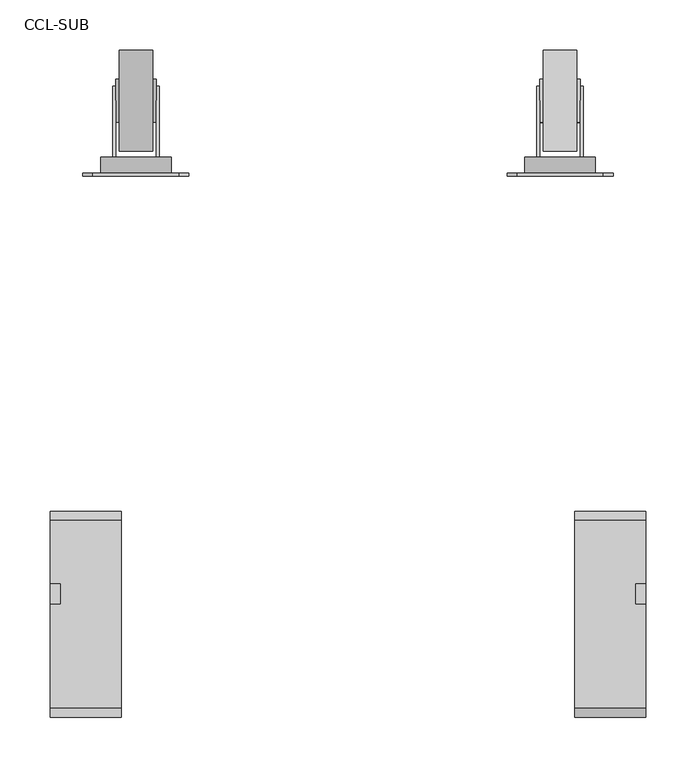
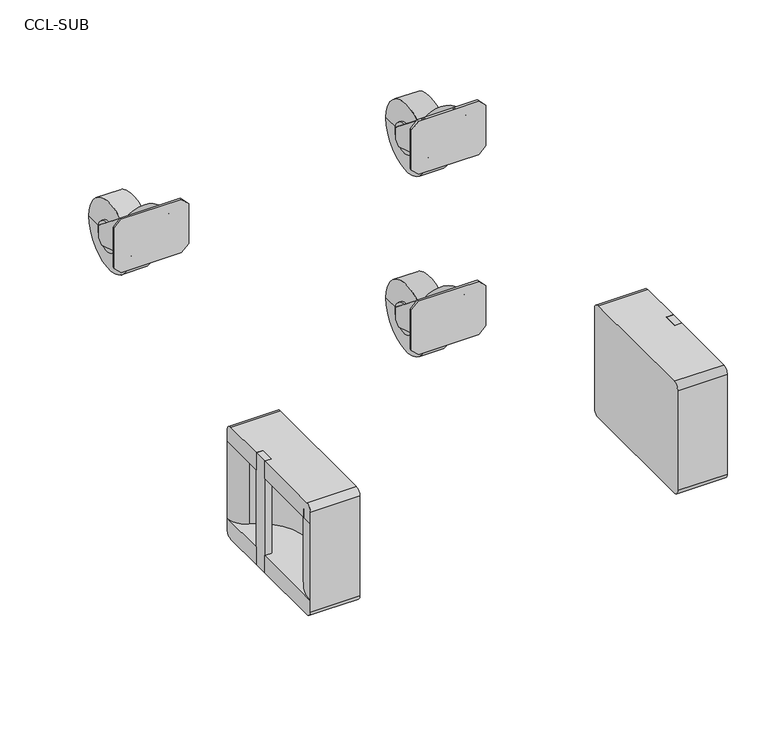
"""IFC4 building model written with IfcOpenShell, lengths in millimetres: proxy geometry, d&b CL-Series CCL-SUB : CCL-SUB."""

from ifc_helpers import new_model, si_unit, frame, origin, place, context, project, spatial, polyline, circle_curve, outline, extrude, source, transform, mapped, element, save
from ifc_brep_helpers import plane_surface, cylinder_surface, revolved_surface, advanced_brep


def ccl_sub_ef88d173(model_context):
    return source(origin(), model_context, "Body", "SolidModel", [
        advanced_brep(
        [(2745.3228617, 668.4505973, 364.999962), (2733.3228617, 668.4505973, 338.6181501), (2733.3228617, 668.4505973, 391.0781491), (2730.3228617, 668.4505973, 391.0781491), (2730.3228617, 668.4505973, 336.2771488), (2690.3228617, 668.4505973, 336.2771488), (2690.3228617, 668.4505973, 391.0781491), (2687.3228617, 668.4505973, 391.0781491), (2687.3228617, 668.4505973, 338.6181501), (2675.3228617, 668.4505973, 364.999962), (2675.3228617, 652.4505973, 364.999962), (2687.3228617, 652.4505973, 338.6181501), (2687.3228617, 652.4505973, 330.17524), (2690.3228617, 652.4505973, 330.17524), (2690.3228617, 652.4505973, 336.2771488), (2730.3228617, 652.4505973, 336.2771488), (2730.3228617, 652.4505973, 330.17524), (2733.3228617, 652.4505973, 330.17524), (2733.3228617, 652.4505973, 338.6181501), (2745.3228617, 652.4505973, 364.999962), (2733.3228617, 667.1505973, 330.17524), (2733.3228617, 731.6505973, 309.999962), (2733.3228617, 738.6505973, 316.999962), (2733.3228617, 738.6505973, 335.1264244), (2730.3228617, 738.6505973, 335.1264244), (2730.3228617, 738.6505973, 316.999962), (2730.3228617, 731.6505973, 309.999962), (2730.3228617, 667.1505973, 330.17524), (2687.3228617, 738.6505973, 335.1264244), (2687.3228617, 738.6505973, 316.999962), (2687.3228617, 731.6505973, 309.999962), (2687.3228617, 667.1505973, 330.17524), (2690.3228617, 667.1505973, 330.17524), (2690.3228617, 731.6505973, 309.999962), (2690.3228617, 738.6505973, 316.999962), (2690.3228617, 738.6505973, 335.1264244)],
        [
            (0, 1, circle_curve(frame((2710.3228617, 668.4505973, 364.999962), z_axis=(0.0, 1.0, 0.0), x_axis=(1.0, 0.0, 0.0)), 35.0)),
            (1, 2),
            (2, 3),
            (3, 4),
            (4, 5, circle_curve(frame((2710.3228617, 668.4505973, 364.999962), z_axis=(0.0, 1.0, 0.0), x_axis=(1.0, 0.0, 0.0)), 35.0)),
            (5, 6),
            (6, 7),
            (7, 8),
            (8, 9, circle_curve(frame((2710.3228617, 668.4505973, 364.999962), z_axis=(0.0, 1.0, 0.0), x_axis=(1.0, 0.0, 0.0)), 35.0)),
            (9, 0, circle_curve(frame((2710.3228617, 668.4505973, 364.999962), z_axis=(0.0, 1.0, 0.0), x_axis=(1.0, 0.0, 0.0)), 35.0)),
            (10, 11, circle_curve(frame((2710.3228617, 652.4505973, 364.999962), z_axis=(0.0, -1.0, 0.0), x_axis=(1.0, 0.0, 0.0)), 35.0)),
            (11, 12),
            (12, 13),
            (13, 14),
            (14, 15, circle_curve(frame((2710.3228617, 652.4505973, 364.999962), z_axis=(0.0, -1.0, 0.0), x_axis=(1.0, 0.0, 0.0)), 35.0)),
            (15, 16),
            (16, 17),
            (17, 18),
            (18, 19, circle_curve(frame((2710.3228617, 652.4505973, 364.999962), z_axis=(0.0, -1.0, 0.0), x_axis=(1.0, 0.0, 0.0)), 35.0)),
            (19, 10, circle_curve(frame((2710.3228617, 652.4505973, 364.999962), z_axis=(0.0, -1.0, 0.0), x_axis=(1.0, 0.0, 0.0)), 35.0)),
            (8, 11),
            (10, 9),
            (14, 5),
            (4, 15),
            (18, 1),
            (0, 19),
            (17, 20),
            (20, 21),
            (21, 22),
            (22, 23),
            (23, 2),
            (3, 24),
            (24, 25),
            (25, 26),
            (26, 27),
            (27, 16),
            (23, 24),
            (22, 25),
            (21, 26),
            (20, 27),
            (7, 28),
            (28, 29),
            (29, 30),
            (30, 31),
            (31, 12),
            (13, 32),
            (32, 33),
            (33, 34),
            (34, 35),
            (35, 6),
            (35, 28),
            (34, 29),
            (33, 30),
            (32, 31),
        ],
        [
            plane_surface(frame((2745.3228617, 668.4505973, 364.999962), z_axis=(0.0, 1.0, 0.0), x_axis=(0.0, 0.0, 1.0))),
            plane_surface(frame((2745.3228617, 652.4505973, 364.999962), z_axis=(0.0, -1.0, 0.0), x_axis=(0.0, 0.0, -1.0))),
            cylinder_surface(frame((2710.3228617, 652.4505973, 364.999962), z_axis=(0.0, 1.0, 0.0), x_axis=(1.0, 0.0, 0.0)), 35.0),
            plane_surface(frame((2733.3228617, 722.3202866, 348.1422228), z_axis=(1.0000000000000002, 0.0, 0.0), x_axis=(0.0, 0.7819992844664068, -0.6232793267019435))),
            plane_surface(frame((2730.3228617, 722.3202866, 348.1422228), z_axis=(-1.0000000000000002, 0.0, 0.0), x_axis=(0.0, -0.7819992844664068, 0.6232793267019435))),
            plane_surface(frame((2733.3228617, 668.4505973, 391.0781491), z_axis=(0.0, 0.6232793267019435, 0.7819992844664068), x_axis=(-1.0, 0.0, 0.0))),
            plane_surface(frame((2733.3228617, 738.6505973, 335.1264244), z_axis=(0.0, 1.0, 0.0), x_axis=(-1.0, 0.0, 0.0))),
            plane_surface(frame((2733.3228617, 738.6505973, 316.999962), z_axis=(0.0, 0.7071067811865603, -0.7071067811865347), x_axis=(-1.0, 0.0, 0.0))),
            plane_surface(frame((2733.3228617, 731.6505973, 309.999962), z_axis=(0.0, -0.29853148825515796, -0.9543997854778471), x_axis=(-1.0, 0.0, 0.0))),
            plane_surface(frame((2733.3228617, 667.1505973, 330.17524), z_axis=(0.0, 0.0, -1.0), x_axis=(-1.0, 0.0, 0.0))),
            plane_surface(frame((2687.3228617, 668.4505973, 391.0781491), z_axis=(-1.0, 0.0, 0.0), x_axis=(0.0, -1.0, 0.0))),
            plane_surface(frame((2690.3228617, 668.4505973, 391.0781491), z_axis=(1.0, 0.0, 0.0), x_axis=(0.0, 1.0, 0.0))),
            plane_surface(frame((2687.3228617, 738.6505973, 335.1264244), z_axis=(0.0, 0.6232793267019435, 0.7819992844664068), x_axis=(1.0, 0.0, 0.0))),
            plane_surface(frame((2687.3228617, 738.6505973, 316.999962), z_axis=(0.0, 1.0, 0.0), x_axis=(1.0, 0.0, 0.0))),
            plane_surface(frame((2687.3228617, 731.6505973, 309.999962), z_axis=(0.0, 0.7071067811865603, -0.7071067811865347), x_axis=(1.0, 0.0, 0.0))),
            plane_surface(frame((2687.3228617, 667.1505973, 330.17524), z_axis=(0.0, -0.29853148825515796, -0.9543997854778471), x_axis=(1.0, 0.0, 0.0))),
            plane_surface(frame((2687.3228617, 652.4505973, 330.17524), z_axis=(0.0, 0.0, -1.0), x_axis=(1.0, 0.0, 0.0))),
        ],
        [
            (0, [[1, 2, 3, 4, 5, 6, 7, 8, 9, 10]]),
            (1, [[11, 12, 13, 14, 15, 16, 17, 18, 19, 20]]),
            (2, [[-9, 21, -11, 22]]),
            (2, [[-15, 23, -5, 24]]),
            (2, [[-19, 25, -1, 26]]),
            (2, [[-22, -20, -26, -10]]),
            (3, [[-2, -25, -18, 27, 28, 29, 30, 31]]),
            (4, [[-16, -24, -4, 32, 33, 34, 35, 36]]),
            (5, [[37, -32, -3, -31]]),
            (6, [[38, -33, -37, -30]]),
            (7, [[39, -34, -38, -29]]),
            (8, [[40, -35, -39, -28]]),
            (9, [[-17, -36, -40, -27]]),
            (10, [[-12, -21, -8, 41, 42, 43, 44, 45]]),
            (11, [[-6, -23, -14, 46, 47, 48, 49, 50]]),
            (12, [[-7, -50, 51, -41]]),
            (13, [[-51, -49, 52, -42]]),
            (14, [[-52, -48, 53, -43]]),
            (15, [[-53, -47, 54, -44]]),
            (16, [[-54, -46, -13, -45]]),
        ],
    ),
        extrude(outline(polyline([(405.0, 2667.8228997), (394.999962, 2657.8228617), (334.999962, 2657.8228617), (324.999924, 2667.8228997), (324.999924, 2752.8228237), (334.999962, 2762.8228617), (394.999962, 2762.8228617), (405.0, 2752.8228237), (405.0, 2667.8228997)])), frame((0.0, 649.4505973, 0.0), z_axis=(0.0, 1.0, 0.0), x_axis=(0.0, 0.0, 1.0)), (0.0, 0.0, 1.0), 3.0),
        advanced_brep(
        [(2726.9996195, 674.1067763, 325.4678867), (2693.6461039, 674.1067763, 325.4678867), (2693.6461039, 774.1067763, 325.4678867), (2726.9996195, 774.1067763, 325.4678867), (2726.9996195, 702.693179, 325.4678867), (2726.9996195, 745.5203735, 325.4678867), (2730.3228617, 702.693179, 325.4678867), (2730.3228617, 745.5203735, 325.4678867), (2730.3228617, 724.1067763, 325.4678867), (2690.3228617, 702.693179, 325.4678867), (2690.3228617, 724.1067763, 325.4678867), (2690.3228617, 745.5203735, 325.4678867), (2693.6461039, 702.693179, 325.4678867), (2693.6461039, 745.5203735, 325.4678867)],
        [
            (0, 1),
            (1, 2, circle_curve(frame((2693.6461039, 724.1067763, 325.4678867), z_axis=(1.0, 0.0, 0.0), x_axis=(0.0, 1.0, 0.0)), 50.0)),
            (2, 3),
            (3, 0, circle_curve(frame((2726.9996195, 724.1067763, 325.4678867), z_axis=(-1.0, 0.0, 0.0), x_axis=(0.0, 1.0, 0.0)), 50.0)),
            (2, 1, circle_curve(frame((2693.6461039, 724.1067763, 325.4678867), z_axis=(1.0, 0.0, 0.0), x_axis=(0.0, 1.0, 0.0)), 50.0)),
            (0, 3, circle_curve(frame((2726.9996195, 724.1067763, 325.4678867), z_axis=(-1.0, 0.0, 0.0), x_axis=(0.0, 1.0, 0.0)), 50.0)),
            (4, 0),
            (3, 5),
            (5, 4, circle_curve(frame((2726.9996195, 724.1067763, 325.4678867), z_axis=(-1.0, 0.0, 0.0), x_axis=(0.0, 1.0, 0.0)), 21.4135972)),
            (4, 5, circle_curve(frame((2726.9996195, 724.1067763, 325.4678867), z_axis=(-1.0, 0.0, 0.0), x_axis=(0.0, 1.0, 0.0)), 21.4135972)),
            (6, 4),
            (5, 7),
            (7, 6, circle_curve(frame((2730.3228617, 724.1067763, 325.4678867), z_axis=(-1.0, 0.0, 0.0), x_axis=(0.0, 1.0, 0.0)), 21.4135972)),
            (6, 7, circle_curve(frame((2730.3228617, 724.1067763, 325.4678867), z_axis=(-1.0, 0.0, 0.0), x_axis=(0.0, 1.0, 0.0)), 21.4135972)),
            (8, 6),
            (7, 8),
            (9, 10),
            (10, 11),
            (11, 9, circle_curve(frame((2690.3228617, 724.1067763, 325.4678867), z_axis=(-1.0, 0.0, 0.0), x_axis=(0.0, 1.0, 0.0)), 21.4135972)),
            (9, 11, circle_curve(frame((2690.3228617, 724.1067763, 325.4678867), z_axis=(-1.0, 0.0, 0.0), x_axis=(0.0, 1.0, 0.0)), 21.4135972)),
            (12, 9),
            (11, 13),
            (13, 12, circle_curve(frame((2693.6461039, 724.1067763, 325.4678867), z_axis=(-1.0, 0.0, 0.0), x_axis=(0.0, 1.0, 0.0)), 21.4135972)),
            (12, 13, circle_curve(frame((2693.6461039, 724.1067763, 325.4678867), z_axis=(-1.0, 0.0, 0.0), x_axis=(0.0, 1.0, 0.0)), 21.4135972)),
            (1, 12),
            (13, 2),
        ],
        [
            cylinder_surface(frame((2753.2661159, 724.1067763, 325.4678867), z_axis=(1.0, 0.0, 0.0), x_axis=(0.0, 1.0, 0.0)), 50.0),
            plane_surface(frame((2726.9996195, 724.1067763, 325.4678867), z_axis=(1.0, 0.0, 0.0), x_axis=(0.0, 1.0, 0.0))),
            cylinder_surface(frame((2753.2661159, 724.1067763, 325.4678867), z_axis=(1.0, 0.0, 0.0), x_axis=(0.0, 1.0, 0.0)), 21.4135972),
            plane_surface(frame((2730.3228617, 724.1067763, 325.4678867), z_axis=(1.0, 0.0, 0.0), x_axis=(0.0, 1.0, 0.0))),
            plane_surface(frame((2690.3228617, 724.1067763, 325.4678867), z_axis=(-1.0, 0.0, 0.0), x_axis=(0.0, 1.0, 0.0))),
            plane_surface(frame((2693.6461039, 724.1067763, 325.4678867), z_axis=(-1.0, 0.0, 0.0), x_axis=(0.0, 1.0, 0.0))),
        ],
        [
            (0, [[1, 2, 3, 4]]),
            (0, [[-3, 5, -1, 6]]),
            (1, [[7, -4, 8, 9]]),
            (1, [[-8, -6, -7, 10]]),
            (2, [[11, -9, 12, 13]]),
            (2, [[-12, -10, -11, 14]]),
            (3, [[15, -13, 16]]),
            (3, [[-16, -14, -15]]),
            (4, [[17, 18, 19]]),
            (4, [[-18, -17, 20]]),
            (2, [[21, -19, 22, 23]]),
            (2, [[-22, -20, -21, 24]]),
            (5, [[25, -23, 26, -2]]),
            (5, [[-26, -24, -25, -5]]),
        ],
    ),
        advanced_brep(
        [(2745.3228617, 668.4505973, 94.999962), (2733.3228617, 668.4505973, 68.6181501), (2733.3228617, 668.4505973, 121.0781491), (2730.3228617, 668.4505973, 121.0781491), (2730.3228617, 668.4505973, 66.2771488), (2690.3228617, 668.4505973, 66.2771488), (2690.3228617, 668.4505973, 121.0781491), (2687.3228617, 668.4505973, 121.0781491), (2687.3228617, 668.4505973, 68.6181501), (2675.3228617, 668.4505973, 94.999962), (2675.3228617, 652.4505973, 94.999962), (2687.3228617, 652.4505973, 68.6181501), (2687.3228617, 652.4505973, 60.17524), (2690.3228617, 652.4505973, 60.17524), (2690.3228617, 652.4505973, 66.2771488), (2730.3228617, 652.4505973, 66.2771488), (2730.3228617, 652.4505973, 60.17524), (2733.3228617, 652.4505973, 60.17524), (2733.3228617, 652.4505973, 68.6181501), (2745.3228617, 652.4505973, 94.999962), (2733.3228617, 667.1505973, 60.17524), (2733.3228617, 731.6505973, 39.999962), (2733.3228617, 738.6505973, 46.999962), (2733.3228617, 738.6505973, 65.1264244), (2730.3228617, 738.6505973, 65.1264244), (2730.3228617, 738.6505973, 46.999962), (2730.3228617, 731.6505973, 39.999962), (2730.3228617, 667.1505973, 60.17524), (2687.3228617, 738.6505973, 65.1264244), (2687.3228617, 738.6505973, 46.999962), (2687.3228617, 731.6505973, 39.999962), (2687.3228617, 667.1505973, 60.17524), (2690.3228617, 667.1505973, 60.17524), (2690.3228617, 731.6505973, 39.999962), (2690.3228617, 738.6505973, 46.999962), (2690.3228617, 738.6505973, 65.1264244)],
        [
            (0, 1, circle_curve(frame((2710.3228617, 668.4505973, 94.999962), z_axis=(0.0, 1.0, 0.0), x_axis=(1.0, 0.0, 0.0)), 35.0)),
            (1, 2),
            (2, 3),
            (3, 4),
            (4, 5, circle_curve(frame((2710.3228617, 668.4505973, 94.999962), z_axis=(0.0, 1.0, 0.0), x_axis=(1.0, 0.0, 0.0)), 35.0)),
            (5, 6),
            (6, 7),
            (7, 8),
            (8, 9, circle_curve(frame((2710.3228617, 668.4505973, 94.999962), z_axis=(0.0, 1.0, 0.0), x_axis=(1.0, 0.0, 0.0)), 35.0)),
            (9, 0, circle_curve(frame((2710.3228617, 668.4505973, 94.999962), z_axis=(0.0, 1.0, 0.0), x_axis=(1.0, 0.0, 0.0)), 35.0)),
            (10, 11, circle_curve(frame((2710.3228617, 652.4505973, 94.999962), z_axis=(0.0, -1.0, 0.0), x_axis=(1.0, 0.0, 0.0)), 35.0)),
            (11, 12),
            (12, 13),
            (13, 14),
            (14, 15, circle_curve(frame((2710.3228617, 652.4505973, 94.999962), z_axis=(0.0, -1.0, 0.0), x_axis=(1.0, 0.0, 0.0)), 35.0)),
            (15, 16),
            (16, 17),
            (17, 18),
            (18, 19, circle_curve(frame((2710.3228617, 652.4505973, 94.999962), z_axis=(0.0, -1.0, 0.0), x_axis=(1.0, 0.0, 0.0)), 35.0)),
            (19, 10, circle_curve(frame((2710.3228617, 652.4505973, 94.999962), z_axis=(0.0, -1.0, 0.0), x_axis=(1.0, 0.0, 0.0)), 35.0)),
            (8, 11),
            (10, 9),
            (14, 5),
            (4, 15),
            (18, 1),
            (0, 19),
            (17, 20),
            (20, 21),
            (21, 22),
            (22, 23),
            (23, 2),
            (3, 24),
            (24, 25),
            (25, 26),
            (26, 27),
            (27, 16),
            (23, 24),
            (22, 25),
            (21, 26),
            (20, 27),
            (7, 28),
            (28, 29),
            (29, 30),
            (30, 31),
            (31, 12),
            (13, 32),
            (32, 33),
            (33, 34),
            (34, 35),
            (35, 6),
            (35, 28),
            (34, 29),
            (33, 30),
            (32, 31),
        ],
        [
            plane_surface(frame((2745.3228617, 668.4505973, 94.999962), z_axis=(0.0, 1.0, 0.0), x_axis=(0.0, 0.0, 1.0))),
            plane_surface(frame((2745.3228617, 652.4505973, 94.999962), z_axis=(0.0, -1.0, 0.0), x_axis=(0.0, 0.0, -1.0))),
            cylinder_surface(frame((2710.3228617, 652.4505973, 94.999962), z_axis=(0.0, 1.0, 0.0), x_axis=(1.0, 0.0, 0.0)), 35.0),
            plane_surface(frame((2733.3228617, 722.3202866, 78.1422228), z_axis=(1.0000000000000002, 0.0, 0.0), x_axis=(0.0, 0.7819992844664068, -0.6232793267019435))),
            plane_surface(frame((2730.3228617, 722.3202866, 78.1422228), z_axis=(-1.0000000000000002, 0.0, 0.0), x_axis=(0.0, -0.7819992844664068, 0.6232793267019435))),
            plane_surface(frame((2733.3228617, 668.4505973, 121.0781491), z_axis=(0.0, 0.6232793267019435, 0.7819992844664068), x_axis=(-1.0, 0.0, 0.0))),
            plane_surface(frame((2733.3228617, 738.6505973, 65.1264244), z_axis=(0.0, 1.0, 0.0), x_axis=(-1.0, 0.0, 0.0))),
            plane_surface(frame((2733.3228617, 738.6505973, 46.999962), z_axis=(0.0, 0.7071067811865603, -0.7071067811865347), x_axis=(-1.0, 0.0, 0.0))),
            plane_surface(frame((2733.3228617, 731.6505973, 39.999962), z_axis=(0.0, -0.29853148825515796, -0.9543997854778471), x_axis=(-1.0, 0.0, 0.0))),
            plane_surface(frame((2733.3228617, 667.1505973, 60.17524), z_axis=(0.0, 0.0, -1.0), x_axis=(-1.0, 0.0, 0.0))),
            plane_surface(frame((2687.3228617, 668.4505973, 121.0781491), z_axis=(-1.0, 0.0, 0.0), x_axis=(0.0, -1.0, 0.0))),
            plane_surface(frame((2690.3228617, 668.4505973, 121.0781491), z_axis=(1.0, 0.0, 0.0), x_axis=(0.0, 1.0, 0.0))),
            plane_surface(frame((2687.3228617, 738.6505973, 65.1264244), z_axis=(0.0, 0.6232793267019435, 0.7819992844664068), x_axis=(1.0, 0.0, 0.0))),
            plane_surface(frame((2687.3228617, 738.6505973, 46.999962), z_axis=(0.0, 1.0, 0.0), x_axis=(1.0, 0.0, 0.0))),
            plane_surface(frame((2687.3228617, 731.6505973, 39.999962), z_axis=(0.0, 0.7071067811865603, -0.7071067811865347), x_axis=(1.0, 0.0, 0.0))),
            plane_surface(frame((2687.3228617, 667.1505973, 60.17524), z_axis=(0.0, -0.29853148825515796, -0.9543997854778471), x_axis=(1.0, 0.0, 0.0))),
            plane_surface(frame((2687.3228617, 652.4505973, 60.17524), z_axis=(0.0, 0.0, -1.0), x_axis=(1.0, 0.0, 0.0))),
        ],
        [
            (0, [[1, 2, 3, 4, 5, 6, 7, 8, 9, 10]]),
            (1, [[11, 12, 13, 14, 15, 16, 17, 18, 19, 20]]),
            (2, [[-9, 21, -11, 22]]),
            (2, [[-15, 23, -5, 24]]),
            (2, [[-19, 25, -1, 26]]),
            (2, [[-22, -20, -26, -10]]),
            (3, [[-2, -25, -18, 27, 28, 29, 30, 31]]),
            (4, [[-16, -24, -4, 32, 33, 34, 35, 36]]),
            (5, [[37, -32, -3, -31]]),
            (6, [[38, -33, -37, -30]]),
            (7, [[39, -34, -38, -29]]),
            (8, [[40, -35, -39, -28]]),
            (9, [[-17, -36, -40, -27]]),
            (10, [[-12, -21, -8, 41, 42, 43, 44, 45]]),
            (11, [[-6, -23, -14, 46, 47, 48, 49, 50]]),
            (12, [[-7, -50, 51, -41]]),
            (13, [[-51, -49, 52, -42]]),
            (14, [[-52, -48, 53, -43]]),
            (15, [[-53, -47, 54, -44]]),
            (16, [[-54, -46, -13, -45]]),
        ],
    ),
        extrude(outline(polyline([(135.0, 2667.8228997), (124.999962, 2657.8228617), (64.999962, 2657.8228617), (54.999924, 2667.8228997), (54.999924, 2752.8228237), (64.999962, 2762.8228617), (124.999962, 2762.8228617), (135.0, 2752.8228237), (135.0, 2667.8228997)])), frame((0.0, 649.4505973, 0.0), z_axis=(0.0, 1.0, 0.0), x_axis=(0.0, 0.0, 1.0)), (0.0, 0.0, 1.0), 3.0),
        advanced_brep(
        [(2726.9996195, 674.1067763, 55.4678867), (2693.6461039, 674.1067763, 55.4678867), (2693.6461039, 774.1067763, 55.4678867), (2726.9996195, 774.1067763, 55.4678867), (2726.9996195, 702.693179, 55.4678867), (2726.9996195, 745.5203735, 55.4678867), (2730.3228617, 702.693179, 55.4678867), (2730.3228617, 745.5203735, 55.4678867), (2730.3228617, 724.1067763, 55.4678867), (2690.3228617, 702.693179, 55.4678867), (2690.3228617, 724.1067763, 55.4678867), (2690.3228617, 745.5203735, 55.4678867), (2693.6461039, 702.693179, 55.4678867), (2693.6461039, 745.5203735, 55.4678867)],
        [
            (0, 1),
            (1, 2, circle_curve(frame((2693.6461039, 724.1067763, 55.4678867), z_axis=(1.0, 0.0, 0.0), x_axis=(0.0, 1.0, 0.0)), 50.0)),
            (2, 3),
            (3, 0, circle_curve(frame((2726.9996195, 724.1067763, 55.4678867), z_axis=(-1.0, 0.0, 0.0), x_axis=(0.0, 1.0, 0.0)), 50.0)),
            (2, 1, circle_curve(frame((2693.6461039, 724.1067763, 55.4678867), z_axis=(1.0, 0.0, 0.0), x_axis=(0.0, 1.0, 0.0)), 50.0)),
            (0, 3, circle_curve(frame((2726.9996195, 724.1067763, 55.4678867), z_axis=(-1.0, 0.0, 0.0), x_axis=(0.0, 1.0, 0.0)), 50.0)),
            (4, 0),
            (3, 5),
            (5, 4, circle_curve(frame((2726.9996195, 724.1067763, 55.4678867), z_axis=(-1.0, 0.0, 0.0), x_axis=(0.0, 1.0, 0.0)), 21.4135972)),
            (4, 5, circle_curve(frame((2726.9996195, 724.1067763, 55.4678867), z_axis=(-1.0, 0.0, 0.0), x_axis=(0.0, 1.0, 0.0)), 21.4135972)),
            (6, 4),
            (5, 7),
            (7, 6, circle_curve(frame((2730.3228617, 724.1067763, 55.4678867), z_axis=(-1.0, 0.0, 0.0), x_axis=(0.0, 1.0, 0.0)), 21.4135972)),
            (6, 7, circle_curve(frame((2730.3228617, 724.1067763, 55.4678867), z_axis=(-1.0, 0.0, 0.0), x_axis=(0.0, 1.0, 0.0)), 21.4135972)),
            (8, 6),
            (7, 8),
            (9, 10),
            (10, 11),
            (11, 9, circle_curve(frame((2690.3228617, 724.1067763, 55.4678867), z_axis=(-1.0, 0.0, 0.0), x_axis=(0.0, 1.0, 0.0)), 21.4135972)),
            (9, 11, circle_curve(frame((2690.3228617, 724.1067763, 55.4678867), z_axis=(-1.0, 0.0, 0.0), x_axis=(0.0, 1.0, 0.0)), 21.4135972)),
            (12, 9),
            (11, 13),
            (13, 12, circle_curve(frame((2693.6461039, 724.1067763, 55.4678867), z_axis=(-1.0, 0.0, 0.0), x_axis=(0.0, 1.0, 0.0)), 21.4135972)),
            (12, 13, circle_curve(frame((2693.6461039, 724.1067763, 55.4678867), z_axis=(-1.0, 0.0, 0.0), x_axis=(0.0, 1.0, 0.0)), 21.4135972)),
            (1, 12),
            (13, 2),
        ],
        [
            cylinder_surface(frame((2753.2661159, 724.1067763, 55.4678867), z_axis=(1.0, 0.0, 0.0), x_axis=(0.0, 1.0, 0.0)), 50.0),
            plane_surface(frame((2726.9996195, 724.1067763, 55.4678867), z_axis=(1.0, 0.0, 0.0), x_axis=(0.0, 1.0, 0.0))),
            cylinder_surface(frame((2753.2661159, 724.1067763, 55.4678867), z_axis=(1.0, 0.0, 0.0), x_axis=(0.0, 1.0, 0.0)), 21.4135972),
            plane_surface(frame((2730.3228617, 724.1067763, 55.4678867), z_axis=(1.0, 0.0, 0.0), x_axis=(0.0, 1.0, 0.0))),
            plane_surface(frame((2690.3228617, 724.1067763, 55.4678867), z_axis=(-1.0, 0.0, 0.0), x_axis=(0.0, 1.0, 0.0))),
            plane_surface(frame((2693.6461039, 724.1067763, 55.4678867), z_axis=(-1.0, 0.0, 0.0), x_axis=(0.0, 1.0, 0.0))),
        ],
        [
            (0, [[1, 2, 3, 4]]),
            (0, [[-3, 5, -1, 6]]),
            (1, [[7, -4, 8, 9]]),
            (1, [[-8, -6, -7, 10]]),
            (2, [[11, -9, 12, 13]]),
            (2, [[-12, -10, -11, 14]]),
            (3, [[15, -13, 16]]),
            (3, [[-16, -14, -15]]),
            (4, [[17, 18, 19]]),
            (4, [[-18, -17, 20]]),
            (2, [[21, -19, 22, 23]]),
            (2, [[-22, -20, -21, 24]]),
            (5, [[25, -23, 26, -2]]),
            (5, [[-26, -24, -25, -5]]),
        ],
    ),
        advanced_brep(
        [(2254.6771383, 668.4505973, 364.999962), (2324.6771383, 668.4505973, 364.999962), (2312.6771383, 668.4505973, 338.6181501), (2312.6771383, 668.4505973, 391.0781491), (2309.6771383, 668.4505973, 391.0781491), (2309.6771383, 668.4505973, 336.2771488), (2269.6771383, 668.4505973, 336.2771488), (2269.6771383, 668.4505973, 391.0781491), (2266.6771383, 668.4505973, 391.0781491), (2266.6771383, 668.4505973, 338.6181501), (2324.6771383, 652.4505973, 364.999962), (2254.6771383, 652.4505973, 364.999962), (2266.6771383, 652.4505973, 338.6181501), (2266.6771383, 652.4505973, 330.17524), (2269.6771383, 652.4505973, 330.17524), (2269.6771383, 652.4505973, 336.2771488), (2309.6771383, 652.4505973, 336.2771488), (2309.6771383, 652.4505973, 330.17524), (2312.6771383, 652.4505973, 330.17524), (2312.6771383, 652.4505973, 338.6181501), (2266.6771383, 738.6505973, 335.1264244), (2266.6771383, 738.6505973, 316.999962), (2266.6771383, 731.6505973, 309.999962), (2266.6771383, 667.1505973, 330.17524), (2269.6771383, 667.1505973, 330.17524), (2269.6771383, 731.6505973, 309.999962), (2269.6771383, 738.6505973, 316.999962), (2269.6771383, 738.6505973, 335.1264244), (2312.6771383, 667.1505973, 330.17524), (2312.6771383, 731.6505973, 309.999962), (2312.6771383, 738.6505973, 316.999962), (2312.6771383, 738.6505973, 335.1264244), (2309.6771383, 738.6505973, 335.1264244), (2309.6771383, 738.6505973, 316.999962), (2309.6771383, 731.6505973, 309.999962), (2309.6771383, 667.1505973, 330.17524)],
        [
            (0, 1, circle_curve(frame((2289.6771383, 668.4505973, 364.999962), z_axis=(0.0, 1.0, 0.0), x_axis=(-1.0, 0.0, 0.0)), 35.0)),
            (1, 2, circle_curve(frame((2289.6771383, 668.4505973, 364.999962), z_axis=(0.0, 1.0, 0.0), x_axis=(-1.0, 0.0, 0.0)), 35.0)),
            (2, 3),
            (3, 4),
            (4, 5),
            (5, 6, circle_curve(frame((2289.6771383, 668.4505973, 364.999962), z_axis=(0.0, 1.0, 0.0), x_axis=(-1.0, 0.0, 0.0)), 35.0)),
            (6, 7),
            (7, 8),
            (8, 9),
            (9, 0, circle_curve(frame((2289.6771383, 668.4505973, 364.999962), z_axis=(0.0, 1.0, 0.0), x_axis=(-1.0, 0.0, 0.0)), 35.0)),
            (10, 11, circle_curve(frame((2289.6771383, 652.4505973, 364.999962), z_axis=(0.0, -1.0, 0.0), x_axis=(-1.0, 0.0, 0.0)), 35.0)),
            (11, 12, circle_curve(frame((2289.6771383, 652.4505973, 364.999962), z_axis=(0.0, -1.0, 0.0), x_axis=(-1.0, 0.0, 0.0)), 35.0)),
            (12, 13),
            (13, 14),
            (14, 15),
            (15, 16, circle_curve(frame((2289.6771383, 652.4505973, 364.999962), z_axis=(0.0, -1.0, 0.0), x_axis=(-1.0, 0.0, 0.0)), 35.0)),
            (16, 17),
            (17, 18),
            (18, 19),
            (19, 10, circle_curve(frame((2289.6771383, 652.4505973, 364.999962), z_axis=(0.0, -1.0, 0.0), x_axis=(-1.0, 0.0, 0.0)), 35.0)),
            (1, 10),
            (19, 2),
            (15, 6),
            (5, 16),
            (11, 0),
            (9, 12),
            (8, 20),
            (20, 21),
            (21, 22),
            (22, 23),
            (23, 13),
            (14, 24),
            (24, 25),
            (25, 26),
            (26, 27),
            (27, 7),
            (27, 20),
            (26, 21),
            (25, 22),
            (24, 23),
            (18, 28),
            (28, 29),
            (29, 30),
            (30, 31),
            (31, 3),
            (4, 32),
            (32, 33),
            (33, 34),
            (34, 35),
            (35, 17),
            (31, 32),
            (30, 33),
            (29, 34),
            (28, 35),
        ],
        [
            plane_surface(frame((2254.6771383, 668.4505973, 364.999962), z_axis=(0.0, 1.0, 0.0), x_axis=(0.0, 0.0, 1.0))),
            plane_surface(frame((2254.6771383, 652.4505973, 364.999962), z_axis=(0.0, -1.0, 0.0), x_axis=(0.0, 0.0, -1.0))),
            cylinder_surface(frame((2289.6771383, 652.4505973, 364.999962), z_axis=(0.0, 1.0, 0.0), x_axis=(-1.0, 0.0, 0.0)), 35.0),
            plane_surface(frame((2266.6771383, 722.3202866, 348.1422228), z_axis=(-1.0000000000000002, 0.0, 0.0), x_axis=(0.0, 0.7819992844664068, -0.6232793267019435))),
            plane_surface(frame((2269.6771383, 722.3202866, 348.1422228), z_axis=(1.0000000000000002, 0.0, 0.0), x_axis=(0.0, -0.7819992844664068, 0.6232793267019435))),
            plane_surface(frame((2266.6771383, 668.4505973, 391.0781491), z_axis=(0.0, 0.6232793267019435, 0.7819992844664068), x_axis=(1.0, 0.0, 0.0))),
            plane_surface(frame((2266.6771383, 738.6505973, 335.1264244), z_axis=(0.0, 1.0, 0.0), x_axis=(1.0, 0.0, 0.0))),
            plane_surface(frame((2266.6771383, 738.6505973, 316.999962), z_axis=(0.0, 0.7071067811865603, -0.7071067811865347), x_axis=(1.0, 0.0, 0.0))),
            plane_surface(frame((2266.6771383, 731.6505973, 309.999962), z_axis=(0.0, -0.29853148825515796, -0.9543997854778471), x_axis=(1.0, 0.0, 0.0))),
            plane_surface(frame((2266.6771383, 667.1505973, 330.17524), z_axis=(0.0, 0.0, -1.0), x_axis=(1.0, 0.0, 0.0))),
            plane_surface(frame((2312.6771383, 668.4505973, 391.0781491), z_axis=(1.0, 0.0, 0.0), x_axis=(0.0, -1.0, 0.0))),
            plane_surface(frame((2309.6771383, 668.4505973, 391.0781491), z_axis=(-1.0, 0.0, 0.0), x_axis=(0.0, 1.0, 0.0))),
            plane_surface(frame((2312.6771383, 738.6505973, 335.1264244), z_axis=(0.0, 0.6232793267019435, 0.7819992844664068), x_axis=(-1.0, 0.0, 0.0))),
            plane_surface(frame((2312.6771383, 738.6505973, 316.999962), z_axis=(0.0, 1.0, 0.0), x_axis=(-1.0, 0.0, 0.0))),
            plane_surface(frame((2312.6771383, 731.6505973, 309.999962), z_axis=(0.0, 0.7071067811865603, -0.7071067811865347), x_axis=(-1.0, 0.0, 0.0))),
            plane_surface(frame((2312.6771383, 667.1505973, 330.17524), z_axis=(0.0, -0.29853148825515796, -0.9543997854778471), x_axis=(-1.0, 0.0, 0.0))),
            plane_surface(frame((2312.6771383, 652.4505973, 330.17524), z_axis=(0.0, 0.0, -1.0), x_axis=(-1.0, 0.0, 0.0))),
        ],
        [
            (0, [[1, 2, 3, 4, 5, 6, 7, 8, 9, 10]]),
            (1, [[11, 12, 13, 14, 15, 16, 17, 18, 19, 20]]),
            (2, [[21, -20, 22, -2]]),
            (2, [[23, -6, 24, -16]]),
            (2, [[25, -10, 26, -12]]),
            (2, [[-1, -25, -11, -21]]),
            (3, [[27, 28, 29, 30, 31, -13, -26, -9]]),
            (4, [[32, 33, 34, 35, 36, -7, -23, -15]]),
            (5, [[-27, -8, -36, 37]]),
            (6, [[-28, -37, -35, 38]]),
            (7, [[-29, -38, -34, 39]]),
            (8, [[-30, -39, -33, 40]]),
            (9, [[-31, -40, -32, -14]]),
            (10, [[41, 42, 43, 44, 45, -3, -22, -19]]),
            (11, [[46, 47, 48, 49, 50, -17, -24, -5]]),
            (12, [[-45, 51, -46, -4]]),
            (13, [[-44, 52, -47, -51]]),
            (14, [[-43, 53, -48, -52]]),
            (15, [[-42, 54, -49, -53]]),
            (16, [[-41, -18, -50, -54]]),
        ],
    ),
        extrude(outline(polyline([(405.0, 2332.1771003), (405.0, 2247.1771763), (394.999962, 2237.1771383), (334.999962, 2237.1771383), (324.999924, 2247.1771763), (324.999924, 2332.1771003), (334.999962, 2342.1771383), (394.999962, 2342.1771383), (405.0, 2332.1771003)])), frame((0.0, 649.4505973, 0.0), z_axis=(0.0, 1.0, 0.0), x_axis=(0.0, 0.0, 1.0)), (0.0, 0.0, 1.0), 3.0),
        advanced_brep(
        [(2273.0003805, 674.1067763, 325.4678867), (2273.0003805, 774.1067763, 325.4678867), (2306.3538961, 774.1067763, 325.4678867), (2306.3538961, 674.1067763, 325.4678867), (2273.0003805, 702.693179, 325.4678867), (2273.0003805, 745.5203735, 325.4678867), (2269.6771383, 702.693179, 325.4678867), (2269.6771383, 745.5203735, 325.4678867), (2269.6771383, 724.1067763, 325.4678867), (2309.6771383, 702.693179, 325.4678867), (2309.6771383, 745.5203735, 325.4678867), (2309.6771383, 724.1067763, 325.4678867), (2306.3538961, 702.693179, 325.4678867), (2306.3538961, 745.5203735, 325.4678867)],
        [
            (0, 1, circle_curve(frame((2273.0003805, 724.1067763, 325.4678867), z_axis=(1.0, 0.0, 0.0), x_axis=(0.0, 1.0, 0.0)), 50.0)),
            (1, 2),
            (2, 3, circle_curve(frame((2306.3538961, 724.1067763, 325.4678867), z_axis=(-1.0, 0.0, 0.0), x_axis=(0.0, 1.0, 0.0)), 50.0)),
            (3, 0),
            (1, 0, circle_curve(frame((2273.0003805, 724.1067763, 325.4678867), z_axis=(1.0, 0.0, 0.0), x_axis=(0.0, 1.0, 0.0)), 50.0)),
            (3, 2, circle_curve(frame((2306.3538961, 724.1067763, 325.4678867), z_axis=(-1.0, 0.0, 0.0), x_axis=(0.0, 1.0, 0.0)), 50.0)),
            (4, 5, circle_curve(frame((2273.0003805, 724.1067763, 325.4678867), z_axis=(1.0, 0.0, 0.0), x_axis=(0.0, 1.0, 0.0)), 21.4135972)),
            (5, 1),
            (0, 4),
            (5, 4, circle_curve(frame((2273.0003805, 724.1067763, 325.4678867), z_axis=(1.0, 0.0, 0.0), x_axis=(0.0, 1.0, 0.0)), 21.4135972)),
            (6, 7, circle_curve(frame((2269.6771383, 724.1067763, 325.4678867), z_axis=(1.0, 0.0, 0.0), x_axis=(0.0, 1.0, 0.0)), 21.4135972)),
            (7, 5),
            (4, 6),
            (7, 6, circle_curve(frame((2269.6771383, 724.1067763, 325.4678867), z_axis=(1.0, 0.0, 0.0), x_axis=(0.0, 1.0, 0.0)), 21.4135972)),
            (8, 7),
            (6, 8),
            (9, 10, circle_curve(frame((2309.6771383, 724.1067763, 325.4678867), z_axis=(1.0, 0.0, 0.0), x_axis=(0.0, 1.0, 0.0)), 21.4135972)),
            (10, 11),
            (11, 9),
            (10, 9, circle_curve(frame((2309.6771383, 724.1067763, 325.4678867), z_axis=(1.0, 0.0, 0.0), x_axis=(0.0, 1.0, 0.0)), 21.4135972)),
            (12, 13, circle_curve(frame((2306.3538961, 724.1067763, 325.4678867), z_axis=(1.0, 0.0, 0.0), x_axis=(0.0, 1.0, 0.0)), 21.4135972)),
            (13, 10),
            (9, 12),
            (13, 12, circle_curve(frame((2306.3538961, 724.1067763, 325.4678867), z_axis=(1.0, 0.0, 0.0), x_axis=(0.0, 1.0, 0.0)), 21.4135972)),
            (2, 13),
            (12, 3),
        ],
        [
            cylinder_surface(frame((2246.7338841, 724.1067763, 325.4678867), z_axis=(-1.0, 0.0, 0.0), x_axis=(0.0, 1.0, 0.0)), 50.0),
            plane_surface(frame((2273.0003805, 724.1067763, 325.4678867), z_axis=(-1.0, 0.0, 0.0), x_axis=(0.0, 1.0, 0.0))),
            cylinder_surface(frame((2246.7338841, 724.1067763, 325.4678867), z_axis=(-1.0, 0.0, 0.0), x_axis=(0.0, 1.0, 0.0)), 21.4135972),
            plane_surface(frame((2269.6771383, 724.1067763, 325.4678867), z_axis=(-1.0, 0.0, 0.0), x_axis=(0.0, 1.0, 0.0))),
            plane_surface(frame((2309.6771383, 724.1067763, 325.4678867), z_axis=(1.0, 0.0, 0.0), x_axis=(0.0, 1.0, 0.0))),
            plane_surface(frame((2306.3538961, 724.1067763, 325.4678867), z_axis=(1.0, 0.0, 0.0), x_axis=(0.0, 1.0, 0.0))),
        ],
        [
            (0, [[1, 2, 3, 4]]),
            (0, [[5, -4, 6, -2]]),
            (1, [[7, 8, -1, 9]]),
            (1, [[10, -9, -5, -8]]),
            (2, [[11, 12, -7, 13]]),
            (2, [[14, -13, -10, -12]]),
            (3, [[15, -11, 16]]),
            (3, [[-16, -14, -15]]),
            (4, [[17, 18, 19]]),
            (4, [[20, -19, -18]]),
            (2, [[21, 22, -17, 23]]),
            (2, [[24, -23, -20, -22]]),
            (5, [[-3, 25, -21, 26]]),
            (5, [[-6, -26, -24, -25]]),
        ],
    ),
        advanced_brep(
        [(2275.0, 112.7505973, 156.7), (2275.0, 121.7505973, 147.7), (2275.0, 307.7505973, 147.7), (2275.0, 316.7505973, 156.7), (2275.0, 316.7505973, 306.2), (2275.0, 307.7505973, 315.2), (2275.0, 121.7505973, 315.2), (2275.0, 112.7505973, 306.2), (2205.0, 316.7505973, 173.7), (2205.0, 316.7505973, 156.7), (2205.0, 307.7505973, 147.7), (2205.0, 245.4484339, 147.7), (2205.0, 245.4484339, 173.7), (2205.0, 112.7505973, 156.7), (2205.0, 112.7505973, 173.7), (2205.0, 224.6043444, 173.7), (2205.0, 224.6043444, 147.7), (2205.0, 121.7505973, 147.7), (2205.0, 112.7505973, 306.2), (2205.0, 121.7505973, 315.2), (2205.0, 224.6043444, 315.2), (2205.0, 224.6043444, 289.2), (2205.0, 112.7505973, 289.2), (2205.0, 316.7505973, 289.2), (2205.0, 245.4484339, 289.2), (2205.0, 245.4484339, 315.2), (2205.0, 307.7505973, 315.2), (2205.0, 316.7505973, 306.2), (2215.0, 224.6043444, 147.7), (2215.0, 245.4484339, 147.7), (2215.0, 224.6043444, 173.7), (2215.0, 245.4484339, 173.7), (2236.2028278, 169.7198126, 173.7), (2221.9361288, 292.8480463, 173.7), (2215.0, 224.6043444, 289.2), (2215.0, 245.4484339, 289.2), (2221.9361288, 292.8480463, 289.2), (2236.2028278, 169.7198126, 289.2), (2215.0, 224.6043444, 315.2), (2215.0, 245.4484339, 315.2)],
        [
            (0, 1, circle_curve(frame((2275.0, 121.7505973, 156.7), z_axis=(1.0, 0.0, 0.0), x_axis=(0.0, 0.0, -1.0)), 9.0)),
            (1, 2),
            (2, 3, circle_curve(frame((2275.0, 307.7505973, 156.7), z_axis=(1.0, 0.0, 0.0), x_axis=(0.0, 0.0, -1.0)), 9.0)),
            (3, 4),
            (4, 5, circle_curve(frame((2275.0, 307.7505973, 306.2), z_axis=(1.0, 0.0, 0.0), x_axis=(0.0, 0.0, 1.0)), 9.0)),
            (5, 6),
            (6, 7, circle_curve(frame((2275.0, 121.7505973, 306.2), z_axis=(1.0, 0.0, 0.0), x_axis=(0.0, 0.0, 1.0)), 9.0)),
            (7, 0),
            (8, 9),
            (9, 10, circle_curve(frame((2205.0, 307.7505973, 156.7), z_axis=(-1.0, 0.0, 0.0), x_axis=(0.0, 0.0, -1.0)), 9.0)),
            (10, 11),
            (11, 12),
            (12, 8),
            (13, 14),
            (14, 15),
            (15, 16),
            (16, 17),
            (17, 13, circle_curve(frame((2205.0, 121.7505973, 156.7), z_axis=(-1.0, 0.0, 0.0), x_axis=(0.0, 0.0, -1.0)), 9.0)),
            (18, 19, circle_curve(frame((2205.0, 121.7505973, 306.2), z_axis=(-1.0, 0.0, 0.0), x_axis=(0.0, 0.0, 1.0)), 9.0)),
            (19, 20),
            (20, 21),
            (21, 22),
            (22, 18),
            (23, 24),
            (24, 25),
            (25, 26),
            (26, 27, circle_curve(frame((2205.0, 307.7505973, 306.2), z_axis=(-1.0, 0.0, 0.0), x_axis=(0.0, 0.0, 1.0)), 9.0)),
            (27, 23),
            (0, 13),
            (17, 1),
            (10, 2),
            (16, 28),
            (28, 29),
            (29, 11),
            (9, 3),
            (8, 23),
            (27, 4),
            (7, 18),
            (22, 14),
            (15, 30),
            (30, 28),
            (12, 31),
            (31, 30),
            (14, 32, circle_curve(frame((2272.6077818, 112.7505973, 173.7), z_axis=(0.0, 0.0, -1.0), x_axis=(1.0, 0.0, 0.0)), 67.6077818)),
            (32, 33, circle_curve(frame((2199.081976, 227.8093188, 173.7), z_axis=(0.0, 0.0, 1.0), x_axis=(1.0, 0.0, 0.0)), 68.9372786)),
            (33, 8, circle_curve(frame((2230.3353176, 316.7505973, 173.7), z_axis=(0.0, 0.0, -1.0), x_axis=(1.0, 0.0, 0.0)), 25.3353176)),
            (29, 31),
            (21, 34),
            (34, 35),
            (35, 24),
            (23, 36, circle_curve(frame((2230.3353176, 316.7505973, 289.2), z_axis=(0.0, 0.0, 1.0), x_axis=(1.0, 0.0, 0.0)), 25.3353176)),
            (36, 37, circle_curve(frame((2199.081976, 227.8093188, 289.2), z_axis=(0.0, 0.0, -1.0), x_axis=(1.0, 0.0, 0.0)), 68.9372786)),
            (37, 22, circle_curve(frame((2272.6077818, 112.7505973, 289.2), z_axis=(0.0, 0.0, 1.0), x_axis=(1.0, 0.0, 0.0)), 67.6077818)),
            (20, 38),
            (38, 34),
            (19, 6),
            (5, 26),
            (25, 39),
            (39, 38),
            (35, 39),
            (37, 32),
            (33, 36),
        ],
        [
            plane_surface(frame((2275.0, 121.7505973, 147.7), z_axis=(1.0, 0.0, 0.0), x_axis=(0.0, 1.0, 0.0))),
            plane_surface(frame((2205.0, 121.7505973, 147.7), z_axis=(-1.0, 0.0, 0.0), x_axis=(0.0, -1.0, 0.0))),
            cylinder_surface(frame((2205.0, 121.7505973, 156.7), z_axis=(1.0, 0.0, 0.0), x_axis=(0.0, 0.0, -1.0)), 9.0),
            plane_surface(frame((2275.0, 121.7505973, 147.7), z_axis=(0.0, 0.0, -1.0), x_axis=(-1.0, 0.0, 0.0))),
            cylinder_surface(frame((2205.0, 307.7505973, 156.7), z_axis=(1.0, 0.0, 0.0), x_axis=(0.0, 0.0, -1.0)), 9.0),
            plane_surface(frame((2275.0, 316.7505973, 156.7), z_axis=(0.0, 1.0, 0.0), x_axis=(-1.0, 0.0, 0.0))),
            plane_surface(frame((2275.0, 112.7505973, 173.7), z_axis=(0.0, -1.0, 0.0), x_axis=(-1.0, 0.0, 0.0))),
            plane_surface(frame((2275.0, 224.6043444, 147.7), z_axis=(0.0, 1.0, 0.0), x_axis=(-1.0, 0.0, 0.0))),
            plane_surface(frame((2275.0, 224.6043444, 173.7), z_axis=(0.0, 0.0, 1.0), x_axis=(-1.0, 0.0, 0.0))),
            plane_surface(frame((2275.0, 245.4484339, 173.7), z_axis=(0.0, -1.0, 0.0), x_axis=(-1.0, 0.0, 0.0))),
            plane_surface(frame((2275.0, 112.7505973, 289.2), z_axis=(0.0, 0.0, -1.0), x_axis=(-1.0, 0.0, 0.0))),
            plane_surface(frame((2275.0, 224.6043444, 289.2), z_axis=(0.0, 1.0, 0.0), x_axis=(-1.0, 0.0, 0.0))),
            plane_surface(frame((2275.0, 224.6043444, 315.2), z_axis=(0.0, 0.0, 1.0), x_axis=(-1.0, 0.0, 0.0))),
            cylinder_surface(frame((2205.0, 121.7505973, 306.2), z_axis=(1.0, 0.0, 0.0), x_axis=(0.0, 0.0, 1.0)), 9.0),
            cylinder_surface(frame((2205.0, 307.7505973, 306.2), z_axis=(1.0, 0.0, 0.0), x_axis=(0.0, 0.0, 1.0)), 9.0),
            plane_surface(frame((2275.0, 245.4484339, 315.2), z_axis=(0.0, -1.0, 0.0), x_axis=(-1.0, 0.0, 0.0))),
            plane_surface(frame((2215.0, 245.4484339, 173.7), z_axis=(-1.0, 0.0, 0.0), x_axis=(0.0, 0.0, -1.0))),
            cylinder_surface(frame((2272.6077818, 112.7505973, 173.7), z_axis=(0.0, 0.0, 1.0), x_axis=(1.0, 0.0, 0.0)), 67.6077818),
            cylinder_surface(frame((2230.3353176, 316.7505973, 173.7), z_axis=(0.0, 0.0, 1.0), x_axis=(1.0, 0.0, 0.0)), 25.3353176),
            revolved_surface(polyline([(2268.0192546, 227.8093188, 173.7), (2268.0192546, 227.8093188, 289.2)]), (2199.081976, 227.8093188, 173.7), (0.0, 0.0, -1.0)),
        ],
        [
            (0, [[1, 2, 3, 4, 5, 6, 7, 8]]),
            (1, [[9, 10, 11, 12, 13]]),
            (1, [[14, 15, 16, 17, 18]]),
            (1, [[19, 20, 21, 22, 23]]),
            (1, [[24, 25, 26, 27, 28]]),
            (2, [[-1, 29, -18, 30]]),
            (3, [[-11, 31, -2, -30, -17, 32, 33, 34]]),
            (4, [[-3, -31, -10, 35]]),
            (5, [[-4, -35, -9, 36, -28, 37]]),
            (6, [[-8, 38, -23, 39, -14, -29]]),
            (7, [[-16, 40, 41, -32]]),
            (8, [[-13, 42, 43, -40, -15, 44, 45, 46]]),
            (9, [[-12, -34, 47, -42]]),
            (10, [[-22, 48, 49, 50, -24, 51, 52, 53]]),
            (11, [[-21, 54, 55, -48]]),
            (12, [[-20, 56, -6, 57, -26, 58, 59, -54]]),
            (13, [[-7, -56, -19, -38]]),
            (14, [[-5, -37, -27, -57]]),
            (15, [[-25, -50, 60, -58]]),
            (16, [[-33, -41, -43, -47]]),
            (16, [[-49, -55, -59, -60]]),
            (17, [[61, -44, -39, -53]]),
            (18, [[-36, -46, 62, -51]]),
            (19, [[-61, -52, -62, -45]]),
        ],
    ),
        extrude(outline(polyline([(2215.0, 245.4484339), (2215.0, 224.6043444), (2205.0, 224.6043444), (2205.0, 245.4484339), (2215.0, 245.4484339)])), frame((0.0, 0.0, 147.7), z_axis=(0.0, 0.0, 1.0), x_axis=(1.0, 0.0, 0.0)), (0.0, 0.0, 1.0), 167.5),
        advanced_brep(
        [(2725.0, 112.7505973, 156.7), (2725.0, 112.7505973, 306.2), (2725.0, 121.7505973, 315.2), (2725.0, 307.7505973, 315.2), (2725.0, 316.7505973, 306.2), (2725.0, 316.7505973, 156.7), (2725.0, 307.7505973, 147.7), (2725.0, 121.7505973, 147.7), (2795.0, 316.7505973, 173.7), (2795.0, 245.4484339, 173.7), (2795.0, 245.4484339, 147.7), (2795.0, 307.7505973, 147.7), (2795.0, 316.7505973, 156.7), (2795.0, 112.7505973, 156.7), (2795.0, 121.7505973, 147.7), (2795.0, 224.6043444, 147.7), (2795.0, 224.6043444, 173.7), (2795.0, 112.7505973, 173.7), (2795.0, 112.7505973, 306.2), (2795.0, 112.7505973, 289.2), (2795.0, 224.6043444, 289.2), (2795.0, 224.6043444, 315.2), (2795.0, 121.7505973, 315.2), (2795.0, 316.7505973, 289.2), (2795.0, 316.7505973, 306.2), (2795.0, 307.7505973, 315.2), (2795.0, 245.4484339, 315.2), (2795.0, 245.4484339, 289.2), (2785.0, 245.4484339, 147.7), (2785.0, 224.6043444, 147.7), (2785.0, 224.6043444, 173.7), (2778.0638712, 292.8480463, 173.7), (2763.7971722, 169.7198126, 173.7), (2785.0, 245.4484339, 173.7), (2763.7971722, 169.7198126, 289.2), (2778.0638712, 292.8480463, 289.2), (2785.0, 245.4484339, 289.2), (2785.0, 224.6043444, 289.2), (2785.0, 224.6043444, 315.2), (2785.0, 245.4484339, 315.2)],
        [
            (0, 1),
            (1, 2, circle_curve(frame((2725.0, 121.7505973, 306.2), z_axis=(-1.0, 0.0, 0.0), x_axis=(0.0, 0.0, 1.0)), 9.0)),
            (2, 3),
            (3, 4, circle_curve(frame((2725.0, 307.7505973, 306.2), z_axis=(-1.0, 0.0, 0.0), x_axis=(0.0, 0.0, 1.0)), 9.0)),
            (4, 5),
            (5, 6, circle_curve(frame((2725.0, 307.7505973, 156.7), z_axis=(-1.0, 0.0, 0.0), x_axis=(0.0, 0.0, -1.0)), 9.0)),
            (6, 7),
            (7, 0, circle_curve(frame((2725.0, 121.7505973, 156.7), z_axis=(-1.0, 0.0, 0.0), x_axis=(0.0, 0.0, -1.0)), 9.0)),
            (8, 9),
            (9, 10),
            (10, 11),
            (11, 12, circle_curve(frame((2795.0, 307.7505973, 156.7), z_axis=(1.0, 0.0, 0.0), x_axis=(0.0, 0.0, -1.0)), 9.0)),
            (12, 8),
            (13, 14, circle_curve(frame((2795.0, 121.7505973, 156.7), z_axis=(1.0, 0.0, 0.0), x_axis=(0.0, 0.0, -1.0)), 9.0)),
            (14, 15),
            (15, 16),
            (16, 17),
            (17, 13),
            (18, 19),
            (19, 20),
            (20, 21),
            (21, 22),
            (22, 18, circle_curve(frame((2795.0, 121.7505973, 306.2), z_axis=(1.0, 0.0, 0.0), x_axis=(0.0, 0.0, 1.0)), 9.0)),
            (23, 24),
            (24, 25, circle_curve(frame((2795.0, 307.7505973, 306.2), z_axis=(1.0, 0.0, 0.0), x_axis=(0.0, 0.0, 1.0)), 9.0)),
            (25, 26),
            (26, 27),
            (27, 23),
            (7, 14),
            (13, 0),
            (10, 28),
            (28, 29),
            (29, 15),
            (6, 11),
            (5, 12),
            (4, 24),
            (23, 8),
            (17, 19),
            (18, 1),
            (29, 30),
            (30, 16),
            (8, 31, circle_curve(frame((2769.6646824, 316.7505973, 173.7), z_axis=(0.0, 0.0, -1.0), x_axis=(-1.0, 0.0, 0.0)), 25.3353176)),
            (31, 32, circle_curve(frame((2800.918024, 227.8093188, 173.7), z_axis=(0.0, 0.0, 1.0), x_axis=(-1.0, 0.0, 0.0)), 68.9372786)),
            (32, 17, circle_curve(frame((2727.3922182, 112.7505973, 173.7), z_axis=(0.0, 0.0, -1.0), x_axis=(-1.0, 0.0, 0.0)), 67.6077818)),
            (30, 33),
            (33, 9),
            (33, 28),
            (19, 34, circle_curve(frame((2727.3922182, 112.7505973, 289.2), z_axis=(0.0, 0.0, 1.0), x_axis=(-1.0, 0.0, 0.0)), 67.6077818)),
            (34, 35, circle_curve(frame((2800.918024, 227.8093188, 289.2), z_axis=(0.0, 0.0, -1.0), x_axis=(-1.0, 0.0, 0.0)), 68.9372786)),
            (35, 23, circle_curve(frame((2769.6646824, 316.7505973, 289.2), z_axis=(0.0, 0.0, 1.0), x_axis=(-1.0, 0.0, 0.0)), 25.3353176)),
            (27, 36),
            (36, 37),
            (37, 20),
            (37, 38),
            (38, 21),
            (38, 39),
            (39, 26),
            (25, 3),
            (2, 22),
            (39, 36),
            (32, 34),
            (35, 31),
        ],
        [
            plane_surface(frame((2725.0, 121.7505973, 147.7), z_axis=(-1.0, 0.0, 0.0), x_axis=(0.0, 1.0, 0.0))),
            plane_surface(frame((2795.0, 121.7505973, 147.7), z_axis=(1.0, 0.0, 0.0), x_axis=(0.0, -1.0, 0.0))),
            cylinder_surface(frame((2795.0, 121.7505973, 156.7), z_axis=(-1.0, 0.0, 0.0), x_axis=(0.0, 0.0, -1.0)), 9.0),
            plane_surface(frame((2725.0, 121.7505973, 147.7), z_axis=(0.0, 0.0, -1.0), x_axis=(1.0, 0.0, 0.0))),
            cylinder_surface(frame((2795.0, 307.7505973, 156.7), z_axis=(-1.0, 0.0, 0.0), x_axis=(0.0, 0.0, -1.0)), 9.0),
            plane_surface(frame((2725.0, 316.7505973, 156.7), z_axis=(0.0, 1.0, 0.0), x_axis=(1.0, 0.0, 0.0))),
            plane_surface(frame((2725.0, 112.7505973, 173.7), z_axis=(0.0, -1.0, 0.0), x_axis=(1.0, 0.0, 0.0))),
            plane_surface(frame((2725.0, 224.6043444, 147.7), z_axis=(0.0, 1.0, 0.0), x_axis=(1.0, 0.0, 0.0))),
            plane_surface(frame((2725.0, 224.6043444, 173.7), z_axis=(0.0, 0.0, 1.0), x_axis=(1.0, 0.0, 0.0))),
            plane_surface(frame((2725.0, 245.4484339, 173.7), z_axis=(0.0, -1.0, 0.0), x_axis=(1.0, 0.0, 0.0))),
            plane_surface(frame((2725.0, 112.7505973, 289.2), z_axis=(0.0, 0.0, -1.0), x_axis=(1.0, 0.0, 0.0))),
            plane_surface(frame((2725.0, 224.6043444, 289.2), z_axis=(0.0, 1.0, 0.0), x_axis=(1.0, 0.0, 0.0))),
            plane_surface(frame((2725.0, 224.6043444, 315.2), z_axis=(0.0, 0.0, 1.0), x_axis=(1.0, 0.0, 0.0))),
            cylinder_surface(frame((2795.0, 121.7505973, 306.2), z_axis=(-1.0, 0.0, 0.0), x_axis=(0.0, 0.0, 1.0)), 9.0),
            cylinder_surface(frame((2795.0, 307.7505973, 306.2), z_axis=(-1.0, 0.0, 0.0), x_axis=(0.0, 0.0, 1.0)), 9.0),
            plane_surface(frame((2725.0, 245.4484339, 315.2), z_axis=(0.0, -1.0, 0.0), x_axis=(1.0, 0.0, 0.0))),
            plane_surface(frame((2785.0, 245.4484339, 173.7), z_axis=(1.0, 0.0, 0.0), x_axis=(0.0, 0.0, -1.0))),
            cylinder_surface(frame((2727.3922182, 112.7505973, 173.7), z_axis=(0.0, 0.0, 1.0), x_axis=(-1.0, 0.0, 0.0)), 67.6077818),
            cylinder_surface(frame((2769.6646824, 316.7505973, 173.7), z_axis=(0.0, 0.0, 1.0), x_axis=(-1.0, 0.0, 0.0)), 25.3353176),
            revolved_surface(polyline([(2731.9807454, 227.8093188, 173.7), (2731.9807454, 227.8093188, 289.2)]), (2800.918024, 227.8093188, 173.7), (0.0, 0.0, -1.0)),
        ],
        [
            (0, [[1, 2, 3, 4, 5, 6, 7, 8]]),
            (1, [[9, 10, 11, 12, 13]]),
            (1, [[14, 15, 16, 17, 18]]),
            (1, [[19, 20, 21, 22, 23]]),
            (1, [[24, 25, 26, 27, 28]]),
            (2, [[29, -14, 30, -8]]),
            (3, [[31, 32, 33, -15, -29, -7, 34, -11]]),
            (4, [[35, -12, -34, -6]]),
            (5, [[36, -24, 37, -13, -35, -5]]),
            (6, [[-30, -18, 38, -19, 39, -1]]),
            (7, [[-33, 40, 41, -16]]),
            (8, [[42, 43, 44, -17, -41, 45, 46, -9]]),
            (9, [[-46, 47, -31, -10]]),
            (10, [[48, 49, 50, -28, 51, 52, 53, -20]]),
            (11, [[-53, 54, 55, -21]]),
            (12, [[-55, 56, 57, -26, 58, -3, 59, -22]]),
            (13, [[-39, -23, -59, -2]]),
            (14, [[-58, -25, -36, -4]]),
            (15, [[-57, 60, -51, -27]]),
            (16, [[-47, -45, -40, -32]]),
            (16, [[-60, -56, -54, -52]]),
            (17, [[-48, -38, -44, 61]]),
            (18, [[-50, 62, -42, -37]]),
            (19, [[-43, -62, -49, -61]]),
        ],
    ),
        extrude(outline(polyline([(2785.0, 245.4484339), (2795.0, 245.4484339), (2795.0, 224.6043444), (2785.0, 224.6043444), (2785.0, 245.4484339)])), frame((0.0, 0.0, 147.7), z_axis=(0.0, 0.0, 1.0), x_axis=(1.0, 0.0, 0.0)), (0.0, 0.0, 1.0), 167.5),
    ])


if __name__ == "__main__":
    model = new_model("IFC4")
    model_context = context("Model", 3, world=origin())
    ifc_project = project(units=[si_unit("LENGTHUNIT", "METRE", prefix="MILLI")], contexts=[model_context])
    site = spatial("IfcSite", under=ifc_project)
    building = spatial("IfcBuilding", under=site)
    placement = place(None, origin())
    ccl_sub_shape = ccl_sub_ef88d173(model_context)
    element("IfcBuildingElementProxy", 1, Name="d&b CL-Series CCL-SUB : CCL-SUB", ObjectType="d&b CL-Series CCL-SUB : CCL-SUB", at=placement, inside=building, context=model_context, shape_type="MappedRepresentation", body=[
        mapped(ccl_sub_shape, transform((0.0, 0.0, 0.0), x_axis=(1.0, 0.0, 0.0), y_axis=(0.0, 1.0, 0.0), z_axis=(0.0, 0.0, 1.0))),
    ])
    save(model, "model.ifc")
